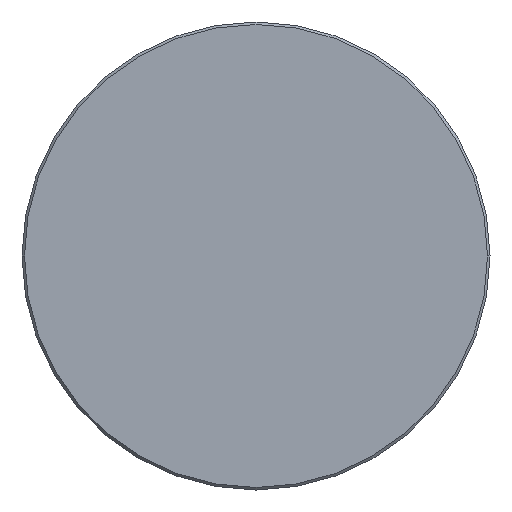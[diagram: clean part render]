
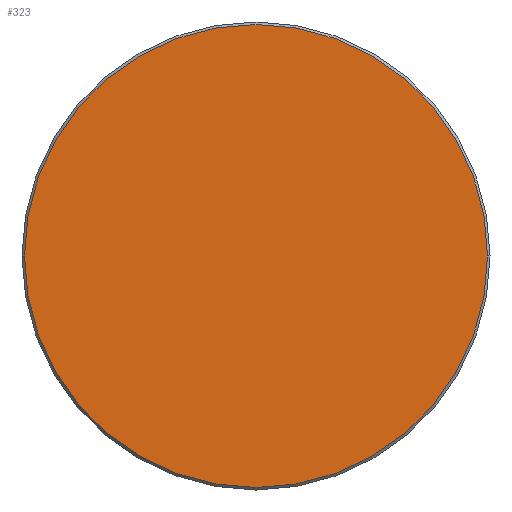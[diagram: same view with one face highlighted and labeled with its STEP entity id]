
A CAD part, left-side view. The second image highlights one B-rep face of the part: STEP entity #323.
In plain terms, the highlighted planar face has unit normal (-1, 0, 0).
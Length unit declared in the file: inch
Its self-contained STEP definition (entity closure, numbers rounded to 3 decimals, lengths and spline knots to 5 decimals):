
#38 = CARTESIAN_POINT ( 'NONE',  ( 0., 0., 0. ) ) ;
#42 = DIRECTION ( 'NONE',  ( -1., 0., 0. ) ) ;
#69 = PLANE ( 'NONE',  #371 ) ;
#71 = DIRECTION ( 'NONE',  ( 0., -1., 0. ) ) ;
#98 = CARTESIAN_POINT ( 'NONE',  ( 0., 0.371, 0. ) ) ;
#133 = DIRECTION ( 'NONE',  ( 0., -1., 0. ) ) ;
#137 = EDGE_LOOP ( 'NONE', ( #302, #218 ) ) ;
#144 = EDGE_CURVE ( 'NONE', #212, #167, #305, .T. ) ;
#167 = VERTEX_POINT ( 'NONE', #98 ) ;
#197 = DIRECTION ( 'NONE',  ( 0., -1., 0. ) ) ;
#201 = CARTESIAN_POINT ( 'NONE',  ( 0., -0.371, 0. ) ) ;
#212 = VERTEX_POINT ( 'NONE', #201 ) ;
#218 = ORIENTED_EDGE ( 'NONE', *, *, #144, .T. ) ;
#225 = EDGE_CURVE ( 'NONE', #167, #212, #264, .T. ) ;
#242 = CARTESIAN_POINT ( 'NONE',  ( 0., 0., 0. ) ) ;
#256 = AXIS2_PLACEMENT_3D ( 'NONE', #259, #378, #197 ) ;
#259 = CARTESIAN_POINT ( 'NONE',  ( 0., 0., 0. ) ) ;
#264 = CIRCLE ( 'NONE', #272, 0.371 ) ;
#270 = DIRECTION ( 'NONE',  ( -1., 0., 0. ) ) ;
#272 = AXIS2_PLACEMENT_3D ( 'NONE', #242, #42, #71 ) ;
#275 = FACE_OUTER_BOUND ( 'NONE', #137, .T. ) ;
#302 = ORIENTED_EDGE ( 'NONE', *, *, #225, .T. ) ;
#305 = CIRCLE ( 'NONE', #256, 0.371 ) ;
#323 = ADVANCED_FACE ( 'NONE', ( #275 ), #69, .T. ) ;
#371 = AXIS2_PLACEMENT_3D ( 'NONE', #38, #270, #133 ) ;
#378 = DIRECTION ( 'NONE',  ( -1., 0., 0. ) ) ;
